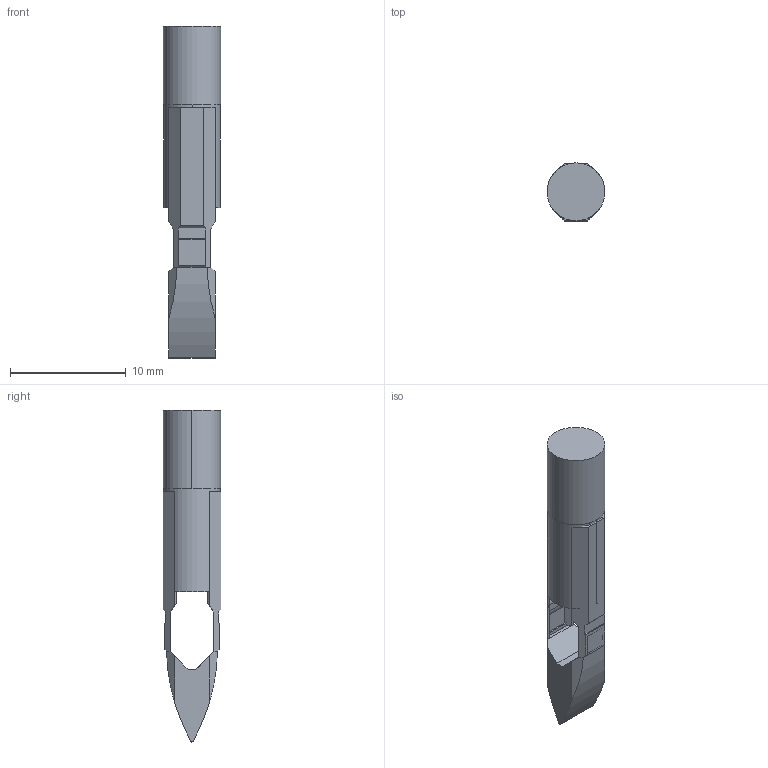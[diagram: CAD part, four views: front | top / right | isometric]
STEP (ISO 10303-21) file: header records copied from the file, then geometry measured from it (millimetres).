
FILE_DESCRIPTION (( 'STEP AP203' ), '1' );
FILE_NAME ('209 Series.STEP', '2016-08-03T08:53:46', ( '' ), ( '' ), 'SwSTEP 2.0', 'SolidWorks 2016', '' );
FILE_SCHEMA (( 'CONFIG_CONTROL_DESIGN' ));
Length unit declared in the file: millimetre
Products named in the file (4): COM4371; 55SBB_Bivar; 209 Series; 501F-C_Short Pins
Assembly tree (3 placements, depth 2):
  209 Series
    55SBB_Bivar
    COM4371
    501F-C_Short Pins
Bounding box: 5 x 5 x 28.7 mm (x, y, z)
Volume: 167 mm3; surface area: 795.4 mm2
Topology: 2 solids, 3 shells, 83 faces, 213 edges, 138 vertices
Faces by surface type: plane 68, cylinder 15
Entity records: 2893 total; most frequent: CARTESIAN_POINT 483, ORIENTED_EDGE 426, DIRECTION 399, EDGE_CURVE 213, VECTOR 179, LINE 179, VERTEX_POINT 138, AXIS2_PLACEMENT_3D 110
